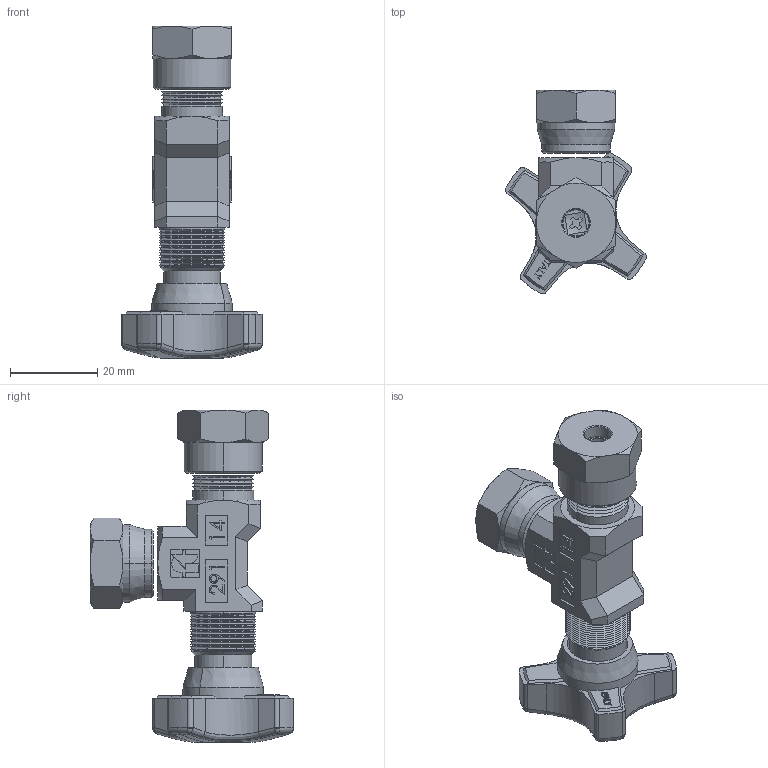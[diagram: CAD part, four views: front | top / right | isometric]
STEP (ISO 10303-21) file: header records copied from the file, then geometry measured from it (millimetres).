
FILE_DESCRIPTION (( 'STEP AP214' ), '1' );
FILE_NAME ('291-04-14.STEP', '2015-05-15T09:43:59', ( '' ), ( '' ), 'SwSTEP 2.0', 'SolidWorks 2014', '' );
FILE_SCHEMA (( 'AUTOMOTIVE_DESIGN' ));
Length unit declared in the file: millimetre
Products named in the file (1): 291-04-14
Bounding box: 32.36 x 46.68 x 76.12 mm (x, y, z)
Surface area: 9541.4 mm2 (no closed solid volume)
Topology: 0 solids, 15 shells, 533 faces, 1453 edges, 925 vertices
Faces by surface type: plane 256, cone 151, cylinder 72, bspline 43, torus 9, sphere 2
Entity records: 24403 total; most frequent: CARTESIAN_POINT 5435, ORIENTED_EDGE 2668, DIRECTION 2639, EDGE_CURVE 1445, VERTEX_POINT 925, LINE 885, VECTOR 885, AXIS2_PLACEMENT_3D 877
